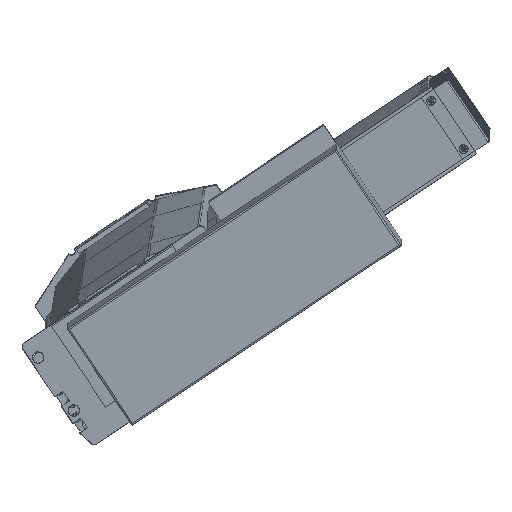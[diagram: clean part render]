
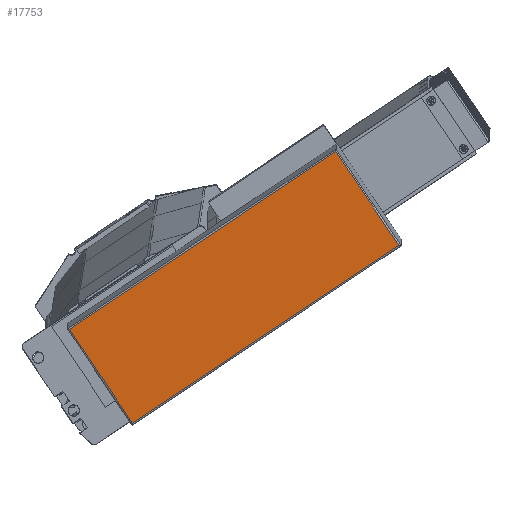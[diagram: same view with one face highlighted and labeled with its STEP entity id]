
A CAD part, top view. The second image highlights one B-rep face of the part: STEP entity #17753.
In plain terms, the highlighted planar face has unit normal (-0.003, -0.079, 0.997) as drawn and (0, 0, 1) by its records, which use the part's own axes.
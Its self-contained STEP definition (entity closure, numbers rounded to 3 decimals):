
#17740 = EDGE_CURVE ( 'NONE', #17757, #17761, #40627, .T. ) ;
#17742 = ORIENTED_EDGE ( 'NONE', *, *, #17740, .T. ) ;
#17749 = EDGE_LOOP ( 'NONE', ( #17763, #17755, #17827, #17742 ) ) ;
#17750 = EDGE_CURVE ( 'NONE', #17761, #17754, #40620, .T. ) ;
#17753 = ADVANCED_FACE ( 'NONE', ( #40657 ), #40661, .T. ) ;
#17754 = VERTEX_POINT ( 'NONE', #40652 ) ;
#17755 = ORIENTED_EDGE ( 'NONE', *, *, #17756, .T. ) ;
#17756 = EDGE_CURVE ( 'NONE', #17754, #17759, #40650, .T. ) ;
#17757 = VERTEX_POINT ( 'NONE', #40616 ) ;
#17759 = VERTEX_POINT ( 'NONE', #40651 ) ;
#17761 = VERTEX_POINT ( 'NONE', #40691 ) ;
#17763 = ORIENTED_EDGE ( 'NONE', *, *, #17750, .T. ) ;
#17826 = EDGE_CURVE ( 'NONE', #17759, #17757, #40747, .T. ) ;
#17827 = ORIENTED_EDGE ( 'NONE', *, *, #17826, .T. ) ;
#40616 = CARTESIAN_POINT ( 'NONE',  ( -34.75, 71., 44. ) ) ;
#40619 = CARTESIAN_POINT ( 'NONE',  ( 164.25, 1., 44. ) ) ;
#40620 = LINE ( 'NONE', #40619, #40660 ) ;
#40623 = VECTOR ( 'NONE', #40625, 1000. ) ;
#40625 = DIRECTION ( 'NONE',  ( 0., -1., 0. ) ) ;
#40626 = CARTESIAN_POINT ( 'NONE',  ( -34.75, 0., 44. ) ) ;
#40627 = LINE ( 'NONE', #40626, #40623 ) ;
#40631 = CARTESIAN_POINT ( 'NONE',  ( -35.75, 0., 44. ) ) ;
#40644 = DIRECTION ( 'NONE',  ( 0., 1., 0. ) ) ;
#40645 = VECTOR ( 'NONE', #40644, 1000. ) ;
#40646 = CARTESIAN_POINT ( 'NONE',  ( 163.25, 72., 44. ) ) ;
#40648 = DIRECTION ( 'NONE',  ( 1., 0., 0. ) ) ;
#40649 = DIRECTION ( 'NONE',  ( 0., 0., 1. ) ) ;
#40650 = LINE ( 'NONE', #40646, #40645 ) ;
#40651 = CARTESIAN_POINT ( 'NONE',  ( 163.25, 71., 44. ) ) ;
#40652 = CARTESIAN_POINT ( 'NONE',  ( 163.25, 1., 44. ) ) ;
#40657 = FACE_OUTER_BOUND ( 'NONE', #17749, .T. ) ;
#40659 = DIRECTION ( 'NONE',  ( 1., 0., 0. ) ) ;
#40660 = VECTOR ( 'NONE', #40659, 1000. ) ;
#40661 = PLANE ( 'NONE',  #40662 ) ;
#40662 = AXIS2_PLACEMENT_3D ( 'NONE', #40631, #40649, #40648 ) ;
#40691 = CARTESIAN_POINT ( 'NONE',  ( -34.75, 1., 44. ) ) ;
#40747 = LINE ( 'NONE', #40793, #40792 ) ;
#40791 = DIRECTION ( 'NONE',  ( -1., 0., 0. ) ) ;
#40792 = VECTOR ( 'NONE', #40791, 1000. ) ;
#40793 = CARTESIAN_POINT ( 'NONE',  ( -35.75, 71., 44. ) ) ;
